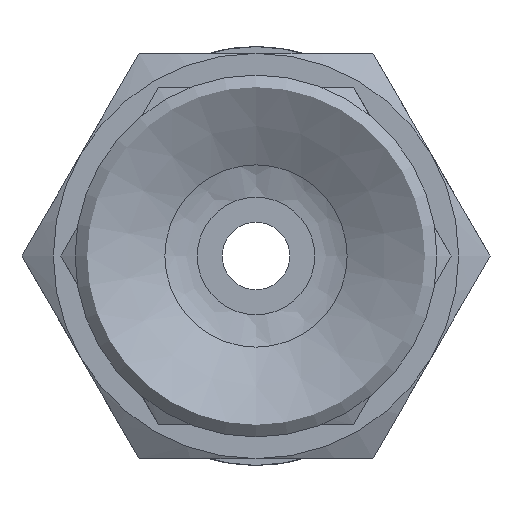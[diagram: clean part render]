
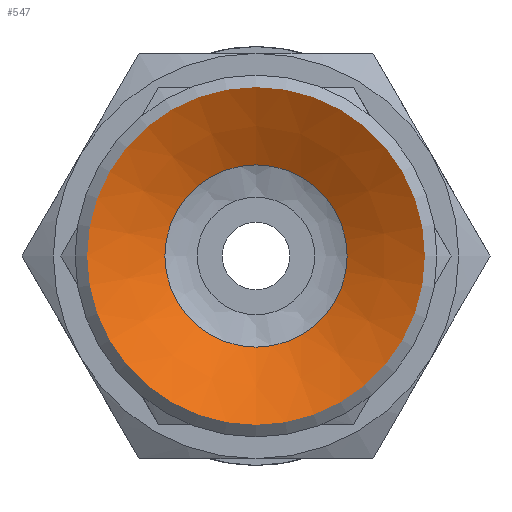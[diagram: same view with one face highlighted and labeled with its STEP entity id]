
A CAD part, front view. The second image highlights one B-rep face of the part: STEP entity #547.
In plain terms, the highlighted conical face has half-angle 61.39 degrees and reference radius 2.25 mm.
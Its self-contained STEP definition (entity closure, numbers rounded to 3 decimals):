
#547=ADVANCED_FACE('',(#831,#832),#833,.F.);
#831=FACE_BOUND('',#1204,.T.);
#832=FACE_OUTER_BOUND('',#1205,.T.);
#833=CONICAL_SURFACE('',#1206,2.25,1.071);
#1204=EDGE_LOOP('',(#2215));
#1205=EDGE_LOOP('',(#2216));
#1206=AXIS2_PLACEMENT_3D('',#2217,#2218,#2219);
#2215=ORIENTED_EDGE('',*,*,#2735,.T.);
#2216=ORIENTED_EDGE('',*,*,#2730,.T.);
#2217=CARTESIAN_POINT('',(0.0,1.5,0.0));
#2218=DIRECTION('',(-0.0,-1.0,0.));
#2219=DIRECTION('',(0.0,0.,-1.0));
#2730=EDGE_CURVE('',#3110,#3110,#3111,.T.);
#2735=EDGE_CURVE('',#3120,#3120,#3121,.T.);
#3110=VERTEX_POINT('',#3904);
#3111=CIRCLE('',#3905,5.);
#3120=VERTEX_POINT('',#3914);
#3121=CIRCLE('',#3915,2.698);
#3904=CARTESIAN_POINT('',(0.0,0.,-5.));
#3905=AXIS2_PLACEMENT_3D('',#4631,#4632,#4633);
#3914=CARTESIAN_POINT('',(0.0,1.256,-2.698));
#3915=AXIS2_PLACEMENT_3D('',#4646,#4647,#4648);
#4631=CARTESIAN_POINT('',(0.0,0.0,0.0));
#4632=DIRECTION('',(0.0,-1.0,0.));
#4633=DIRECTION('',(0.0,0.,-1.0));
#4646=CARTESIAN_POINT('',(0.0,1.256,0.0));
#4647=DIRECTION('',(0.0,1.0,0.));
#4648=DIRECTION('',(0.0,0.,-1.0));
